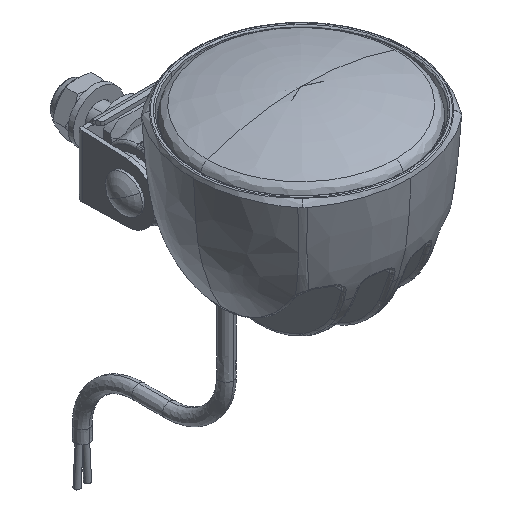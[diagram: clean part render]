
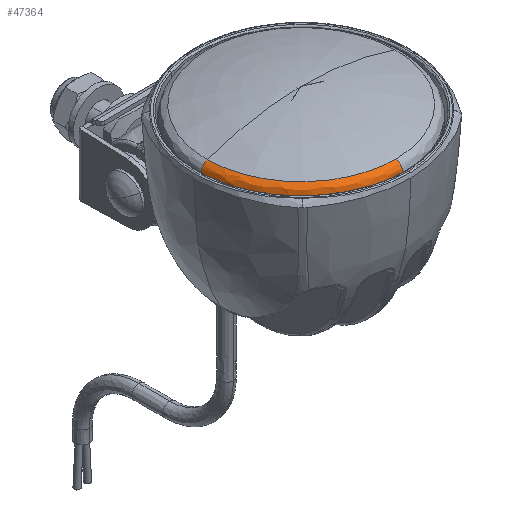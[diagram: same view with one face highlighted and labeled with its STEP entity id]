
A CAD part, isometric view. The second image highlights one B-rep face of the part: STEP entity #47364.
In plain terms, the highlighted free-form (B-spline) face has degree [5, 5] with [6, 6] control points.
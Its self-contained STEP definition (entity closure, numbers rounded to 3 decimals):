
#47282=CARTESIAN_POINT('Control Point',(-38.872,20.653,79.379)) ;
#47283=CARTESIAN_POINT('Control Point',(-38.792,20.654,80.295)) ;
#47284=CARTESIAN_POINT('Control Point',(-38.449,20.656,81.188)) ;
#47285=CARTESIAN_POINT('Control Point',(-37.85,20.66,81.957)) ;
#47286=CARTESIAN_POINT('Control Point',(-37.067,20.666,82.508)) ;
#47287=CARTESIAN_POINT('Control Point',(-36.198,20.672,82.809)) ;
#47288=CARTESIAN_POINT('Control Point',(-38.782,8.494,79.379)) ;
#47289=CARTESIAN_POINT('Control Point',(-38.702,8.52,80.295)) ;
#47290=CARTESIAN_POINT('Control Point',(-38.359,8.63,81.189)) ;
#47291=CARTESIAN_POINT('Control Point',(-37.762,8.822,81.957)) ;
#47292=CARTESIAN_POINT('Control Point',(-36.981,9.073,82.508)) ;
#47293=CARTESIAN_POINT('Control Point',(-36.114,9.353,82.809)) ;
#47294=CARTESIAN_POINT('Control Point',(-33.941,-3.653,79.379)) ;
#47295=CARTESIAN_POINT('Control Point',(-33.871,-3.602,80.295)) ;
#47296=CARTESIAN_POINT('Control Point',(-33.572,-3.384,81.189)) ;
#47297=CARTESIAN_POINT('Control Point',(-33.049,-3.004,81.957)) ;
#47298=CARTESIAN_POINT('Control Point',(-32.366,-2.507,82.508)) ;
#47299=CARTESIAN_POINT('Control Point',(-31.607,-1.956,82.809)) ;
#47300=CARTESIAN_POINT('Control Point',(-24.255,-13.203,79.379)) ;
#47301=CARTESIAN_POINT('Control Point',(-24.205,-13.133,80.295)) ;
#47302=CARTESIAN_POINT('Control Point',(-23.992,-12.83,81.189)) ;
#47303=CARTESIAN_POINT('Control Point',(-23.619,-12.302,81.957)) ;
#47304=CARTESIAN_POINT('Control Point',(-23.132,-11.612,82.508)) ;
#47305=CARTESIAN_POINT('Control Point',(-22.591,-10.846,82.81)) ;
#47306=CARTESIAN_POINT('Control Point',(-12.041,-17.872,79.379)) ;
#47307=CARTESIAN_POINT('Control Point',(-12.016,-17.791,80.295)) ;
#47308=CARTESIAN_POINT('Control Point',(-11.911,-17.447,81.189)) ;
#47309=CARTESIAN_POINT('Control Point',(-11.727,-16.847,81.957)) ;
#47310=CARTESIAN_POINT('Control Point',(-11.487,-16.063,82.508)) ;
#47311=CARTESIAN_POINT('Control Point',(-11.22,-15.192,82.81)) ;
#47312=CARTESIAN_POINT('Control Point',(0.119,-17.79,79.379)) ;
#47313=CARTESIAN_POINT('Control Point',(0.118,-17.71,80.295)) ;
#47314=CARTESIAN_POINT('Control Point',(0.116,-17.367,81.189)) ;
#47315=CARTESIAN_POINT('Control Point',(0.111,-16.768,81.957)) ;
#47316=CARTESIAN_POINT('Control Point',(0.106,-15.985,82.508)) ;
#47317=CARTESIAN_POINT('Control Point',(0.1,-15.116,82.81)) ;
#47319=CARTESIAN_POINT('Control Point',(-36.198,20.672,82.809)) ;
#47320=CARTESIAN_POINT('Control Point',(-36.114,9.353,82.809)) ;
#47321=CARTESIAN_POINT('Control Point',(-31.607,-1.956,82.809)) ;
#47322=CARTESIAN_POINT('Control Point',(-22.591,-10.846,82.81)) ;
#47323=CARTESIAN_POINT('Control Point',(-11.22,-15.192,82.81)) ;
#47324=CARTESIAN_POINT('Control Point',(0.1,-15.116,82.81)) ;
#47325=CARTESIAN_POINT('Vertex',(-36.198,20.672,82.809)) ;
#47327=CARTESIAN_POINT('Vertex',(0.1,-15.116,82.81)) ;
#47331=CARTESIAN_POINT('Control Point',(-38.872,20.653,79.379)) ;
#47332=CARTESIAN_POINT('Control Point',(-38.792,20.654,80.295)) ;
#47333=CARTESIAN_POINT('Control Point',(-38.449,20.656,81.188)) ;
#47334=CARTESIAN_POINT('Control Point',(-37.85,20.66,81.957)) ;
#47335=CARTESIAN_POINT('Control Point',(-37.067,20.666,82.508)) ;
#47336=CARTESIAN_POINT('Control Point',(-36.198,20.672,82.809)) ;
#47337=CARTESIAN_POINT('Vertex',(-38.872,20.653,79.379)) ;
#47341=CARTESIAN_POINT('Control Point',(-38.872,20.653,79.379)) ;
#47342=CARTESIAN_POINT('Control Point',(-38.782,8.494,79.379)) ;
#47343=CARTESIAN_POINT('Control Point',(-33.941,-3.653,79.379)) ;
#47344=CARTESIAN_POINT('Control Point',(-24.255,-13.203,79.379)) ;
#47345=CARTESIAN_POINT('Control Point',(-12.041,-17.872,79.379)) ;
#47346=CARTESIAN_POINT('Control Point',(0.119,-17.79,79.379)) ;
#47347=CARTESIAN_POINT('Vertex',(0.119,-17.79,79.379)) ;
#47351=CARTESIAN_POINT('Control Point',(0.119,-17.79,79.379)) ;
#47352=CARTESIAN_POINT('Control Point',(0.118,-17.71,80.295)) ;
#47353=CARTESIAN_POINT('Control Point',(0.116,-17.367,81.189)) ;
#47354=CARTESIAN_POINT('Control Point',(0.111,-16.768,81.957)) ;
#47355=CARTESIAN_POINT('Control Point',(0.106,-15.985,82.508)) ;
#47356=CARTESIAN_POINT('Control Point',(0.1,-15.116,82.81)) ;
#47359=ORIENTED_EDGE('',*,*,#47329,.F.) ;
#47360=ORIENTED_EDGE('',*,*,#47339,.F.) ;
#47361=ORIENTED_EDGE('',*,*,#47349,.T.) ;
#47362=ORIENTED_EDGE('',*,*,#47357,.T.) ;
#47364=ADVANCED_FACE('WORK LAMP',(#47363),#47281,.T.) ;
#47318=B_SPLINE_CURVE_WITH_KNOTS('',5,(#47319,#47320,#47321,#47322,#47323,#47324),.UNSPECIFIED.,.F.,.U.,(6,6),(0.,62.417),.UNSPECIFIED.) ;
#47330=B_SPLINE_CURVE_WITH_KNOTS('',5,(#47331,#47332,#47333,#47334,#47335,#47336),.UNSPECIFIED.,.F.,.U.,(6,6),(0.,4.812),.UNSPECIFIED.) ;
#47340=B_SPLINE_CURVE_WITH_KNOTS('',5,(#47341,#47342,#47343,#47344,#47345,#47346),.UNSPECIFIED.,.F.,.U.,(6,6),(0.,62.417),.UNSPECIFIED.) ;
#47350=B_SPLINE_CURVE_WITH_KNOTS('',5,(#47351,#47352,#47353,#47354,#47355,#47356),.UNSPECIFIED.,.F.,.U.,(6,6),(0.,4.812),.UNSPECIFIED.) ;
#47281=B_SPLINE_SURFACE_WITH_KNOTS('',5,5,((#47282,#47283,#47284,#47285,#47286,#47287),(#47288,#47289,#47290,#47291,#47292,#47293),(#47294,#47295,#47296,#47297,#47298,#47299),(#47300,#47301,#47302,#47303,#47304,#47305),(#47306,#47307,#47308,#47309,#47310,#47311),(#47312,#47313,#47314,#47315,#47316,#47317)),.UNSPECIFIED.,.F.,.F.,.U.,(6,6),(6,6),(0.,62.417),(0.,4.812),.UNSPECIFIED.) ;
#47329=EDGE_CURVE('',#47326,#47328,#47318,.T.) ;
#47339=EDGE_CURVE('',#47338,#47326,#47330,.T.) ;
#47349=EDGE_CURVE('',#47338,#47348,#47340,.T.) ;
#47357=EDGE_CURVE('',#47348,#47328,#47350,.T.) ;
#47358=EDGE_LOOP('',(#47359,#47360,#47361,#47362)) ;
#47363=FACE_OUTER_BOUND('',#47358,.T.) ;
#47326=VERTEX_POINT('',#47325) ;
#47328=VERTEX_POINT('',#47327) ;
#47338=VERTEX_POINT('',#47337) ;
#47348=VERTEX_POINT('',#47347) ;
